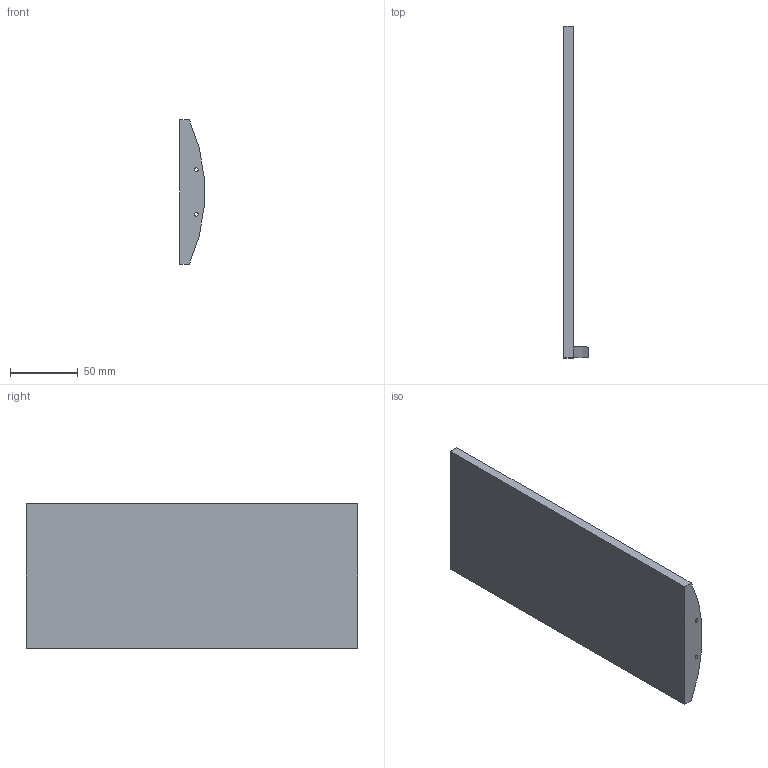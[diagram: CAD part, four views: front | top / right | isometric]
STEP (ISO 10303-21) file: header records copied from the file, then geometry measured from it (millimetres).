
FILE_DESCRIPTION(/* description */ (''),/* implementation_level */ '2;1');
FILE_NAME(/* name */ 'FrontFP1.4_MIR1_MIR.stp',/* time_stamp */ '2025-10-17T11:30:32+05:00',/* author */ ('yrysz'),/* organization */ (''),/* preprocessor_version */ 'ST-DEVELOPER v20',/* originating_system */ 'Autodesk Inventor 2025',/* authorisation */ '');
FILE_SCHEMA (('AUTOMOTIVE_DESIGN { 1 0 10303 214 3 1 1 }'));
Length unit declared in the file: millimetre
Products named in the file (1): FrontFP1.4_MIR1_MIR
Bounding box: 18.03 x 245 x 106.5 mm (x, y, z)
Volume: 189141.5 mm3; surface area: 58896.5 mm2
Topology: 1 solids, 1 shells, 10 faces, 22 edges, 14 vertices
Faces by surface type: plane 7, cylinder 3
Full cylindrical faces by diameter (mm): 2.8 x2
Entity records: 327 total; most frequent: DIRECTION 50, CARTESIAN_POINT 47, ORIENTED_EDGE 44, EDGE_CURVE 22, AXIS2_PLACEMENT_3D 17, LINE 16, VECTOR 16, EDGE_LOOP 14
